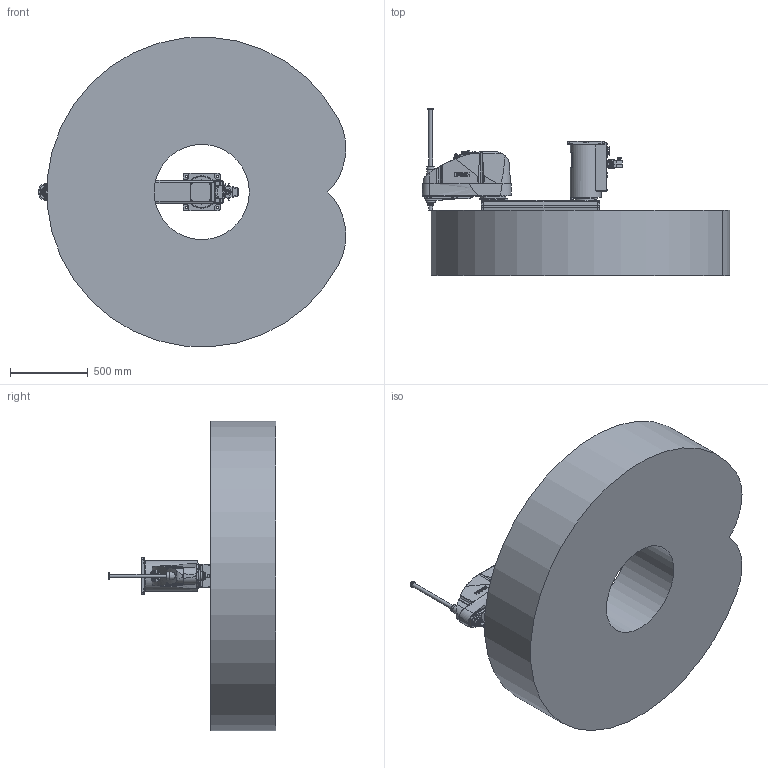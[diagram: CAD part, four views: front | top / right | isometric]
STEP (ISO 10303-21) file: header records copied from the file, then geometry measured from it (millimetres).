
FILE_DESCRIPTION( ( 'STEP AP214' ), '1' );
FILE_NAME( 'C:/Users/9607552/Desktop/GX20-BA04SR_langle.stp', '2023-08-01T09:44:29', ( '' ), ( '' ), ' ', 'PARTsolutions', ' ' );
FILE_SCHEMA( ( 'AUTOMOTIVE_DESIGN { 1 0 10303 214 1 1 1 1 }' ) );
Length unit declared in the file: millimetre
Products named in the file (7): GX20-BA04SRA-W; _Base sr; _Angle-B; _J1 Arm GX10-600 r/w; _J2 Arm GX10-s; _J3 Arm GX10-s (4); _GX10_20B-36_4
Assembly tree (6 placements, depth 2):
  GX20-BA04SRA-W
    _Base sr
    _Angle-B
    _J1 Arm GX10-600 r/w
    _J2 Arm GX10-s
    _J3 Arm GX10-s (4)
    _GX10_20B-36_4
Bounding box: 1985.19 x 1080 x 1996.91 mm (x, y, z)
Volume: 1214219843.5 mm3; surface area: 10538534 mm2
Topology: 6 solids, 6 shells, 2471 faces, 6041 edges, 3949 vertices
Faces by surface type: plane 1313, cylinder 761, cone 302, torus 62, bspline 32, sphere 1
Full cylindrical faces by diameter (mm): 1 x24, 1.18 x55, 3 x32, 3.242 x10, 3.3 x4, 4.2 x4, 4.8 x4, 5.1 x4, 5.25 x2, 5.34 x8, 5.4 x5, 5.5 x16, 6 x1, 6.2 x4, 6.647 x2, 7 x31, 8 x9, 8.5 x2, 9 x4, 10 x32, 11 x14, 12 x6, 12.25 x1, 13 x2, 14 x8, 14.25 x1, 16 x6, 18 x2, 20.4 x1, 21.7 x2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
Entity records: 93630 total; most frequent: CARTESIAN_POINT 17799, DIRECTION 11564, ORIENTED_EDGE 10754, EDGE_CURVE 5377, AXIS2_PLACEMENT_3D 4399, VERTEX_POINT 3863, EDGE_LOOP 3442, FACE_OUTER_BOUND 2844
